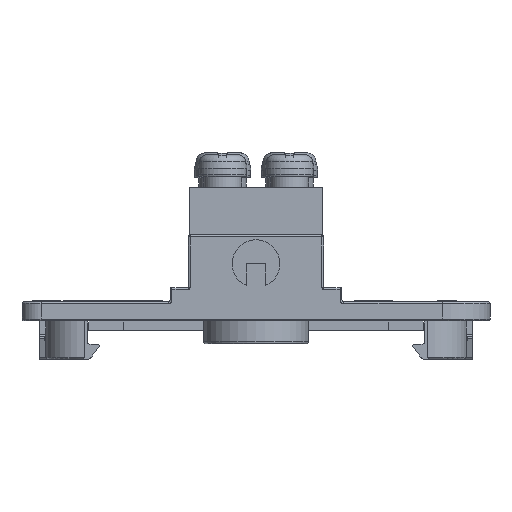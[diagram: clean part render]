
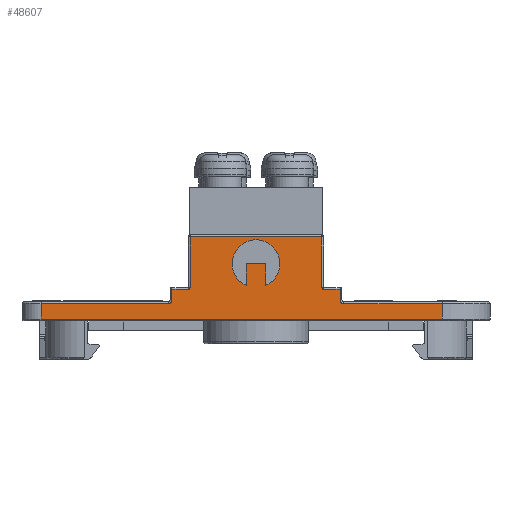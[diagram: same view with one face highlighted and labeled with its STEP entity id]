
A CAD part, left-side view. The second image highlights one B-rep face of the part: STEP entity #48607.
In plain terms, the highlighted planar face has unit normal (-1, 0, 0).
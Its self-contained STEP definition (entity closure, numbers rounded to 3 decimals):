
#3006=LINE('',#69910,#6292);
#3008=LINE('',#69914,#6294);
#3010=LINE('',#69918,#6296);
#3225=LINE('',#70447,#6511);
#3324=LINE('',#70712,#6610);
#3325=LINE('',#70717,#6611);
#3326=LINE('',#70719,#6612);
#3327=LINE('',#70721,#6613);
#3328=LINE('',#70722,#6614);
#3329=LINE('',#70726,#6615);
#3330=LINE('',#70728,#6616);
#3331=LINE('',#70732,#6617);
#3332=LINE('',#70734,#6618);
#3333=LINE('',#70736,#6619);
#3334=LINE('',#70740,#6620);
#6292=VECTOR('',#56758,1000.);
#6294=VECTOR('',#56762,1000.);
#6296=VECTOR('',#56766,1000.);
#6511=VECTOR('',#57171,1000.);
#6610=VECTOR('',#57432,1000.);
#6611=VECTOR('',#57435,1000.);
#6612=VECTOR('',#57436,1000.);
#6613=VECTOR('',#57437,1000.);
#6614=VECTOR('',#57438,1000.);
#6615=VECTOR('',#57441,1000.);
#6616=VECTOR('',#57442,1000.);
#6617=VECTOR('',#57445,1000.);
#6618=VECTOR('',#57446,1000.);
#6619=VECTOR('',#57447,1000.);
#6620=VECTOR('',#57450,1000.);
#12781=ORIENTED_EDGE('',*,*,#20768,.T.);
#12782=ORIENTED_EDGE('',*,*,#20769,.T.);
#12783=ORIENTED_EDGE('',*,*,#20770,.T.);
#12784=ORIENTED_EDGE('',*,*,#20771,.T.);
#12785=ORIENTED_EDGE('',*,*,#20772,.T.);
#12786=ORIENTED_EDGE('',*,*,#20630,.T.);
#12787=ORIENTED_EDGE('',*,*,#20773,.T.);
#12788=ORIENTED_EDGE('',*,*,#20774,.T.);
#12789=ORIENTED_EDGE('',*,*,#20775,.T.);
#12790=ORIENTED_EDGE('',*,*,#20776,.T.);
#12791=ORIENTED_EDGE('',*,*,#20777,.F.);
#12792=ORIENTED_EDGE('',*,*,#20778,.T.);
#12793=ORIENTED_EDGE('',*,*,#20779,.T.);
#12794=ORIENTED_EDGE('',*,*,#20780,.T.);
#12795=ORIENTED_EDGE('',*,*,#20781,.F.);
#12796=ORIENTED_EDGE('',*,*,#20782,.T.);
#12797=ORIENTED_EDGE('',*,*,#20381,.T.);
#12798=ORIENTED_EDGE('',*,*,#20379,.F.);
#12799=ORIENTED_EDGE('',*,*,#20377,.T.);
#12800=ORIENTED_EDGE('',*,*,#20374,.T.);
#20374=EDGE_CURVE('',#24755,#24756,#26578,.T.);
#20377=EDGE_CURVE('',#24757,#24755,#3006,.T.);
#20379=EDGE_CURVE('',#24757,#24758,#3008,.T.);
#20381=EDGE_CURVE('',#24756,#24758,#3010,.T.);
#20630=EDGE_CURVE('',#24978,#24979,#3225,.F.);
#20768=EDGE_CURVE('',#25063,#25064,#3324,.F.);
#20769=EDGE_CURVE('',#25064,#25065,#26652,.F.);
#20770=EDGE_CURVE('',#25065,#25066,#3325,.F.);
#20771=EDGE_CURVE('',#25066,#25067,#3326,.T.);
#20772=EDGE_CURVE('',#25067,#24978,#3327,.F.);
#20773=EDGE_CURVE('',#24979,#25068,#3328,.F.);
#20774=EDGE_CURVE('',#25068,#25069,#26653,.F.);
#20775=EDGE_CURVE('',#25069,#25070,#3329,.F.);
#20776=EDGE_CURVE('',#25070,#25071,#3330,.F.);
#20777=EDGE_CURVE('',#25072,#25071,#26654,.T.);
#20778=EDGE_CURVE('',#25072,#25073,#3331,.F.);
#20779=EDGE_CURVE('',#25073,#25074,#3332,.F.);
#20780=EDGE_CURVE('',#25074,#25075,#3333,.F.);
#20781=EDGE_CURVE('',#25076,#25075,#26655,.T.);
#20782=EDGE_CURVE('',#25076,#25063,#3334,.F.);
#24755=VERTEX_POINT('',#69905);
#24756=VERTEX_POINT('',#69906);
#24757=VERTEX_POINT('',#69911);
#24758=VERTEX_POINT('',#69915);
#24978=VERTEX_POINT('',#70448);
#24979=VERTEX_POINT('',#70449);
#25063=VERTEX_POINT('',#70713);
#25064=VERTEX_POINT('',#70714);
#25065=VERTEX_POINT('',#70716);
#25066=VERTEX_POINT('',#70718);
#25067=VERTEX_POINT('',#70720);
#25068=VERTEX_POINT('',#70723);
#25069=VERTEX_POINT('',#70725);
#25070=VERTEX_POINT('',#70727);
#25071=VERTEX_POINT('',#70729);
#25072=VERTEX_POINT('',#70731);
#25073=VERTEX_POINT('',#70733);
#25074=VERTEX_POINT('',#70735);
#25075=VERTEX_POINT('',#70737);
#25076=VERTEX_POINT('',#70739);
#26578=CIRCLE('',#51013,2.5);
#26652=CIRCLE('',#51193,0.4);
#26653=CIRCLE('',#51194,0.4);
#26654=CIRCLE('',#51195,0.2);
#26655=CIRCLE('',#51196,0.2);
#28191=EDGE_LOOP('',(#12781,#12782,#12783,#12784,#12785,#12786,#12787,#12788,
#12789,#12790,#12791,#12792,#12793,#12794,#12795,#12796));
#28192=EDGE_LOOP('',(#12797,#12798,#12799,#12800));
#30713=FACE_BOUND('',#28191,.T.);
#30714=FACE_BOUND('',#28192,.T.);
#32814=PLANE('',#51192);
#48607=ADVANCED_FACE('',(#30713,#30714),#32814,.T.);
#51013=AXIS2_PLACEMENT_3D('',#69904,#56752,#56753);
#51192=AXIS2_PLACEMENT_3D('',#70711,#57430,#57431);
#51193=AXIS2_PLACEMENT_3D('',#70715,#57433,#57434);
#51194=AXIS2_PLACEMENT_3D('',#70724,#57439,#57440);
#51195=AXIS2_PLACEMENT_3D('',#70730,#57443,#57444);
#51196=AXIS2_PLACEMENT_3D('',#70738,#57448,#57449);
#56752=DIRECTION('',(1.,0.,0.));
#56753=DIRECTION('',(0.,0.,-1.));
#56758=DIRECTION('',(0.,0.,-1.));
#56762=DIRECTION('',(0.,-1.,0.));
#56766=DIRECTION('',(0.,0.,1.));
#57171=DIRECTION('',(0.,0.,-1.));
#57430=DIRECTION('',(-1.,0.,0.));
#57431=DIRECTION('',(0.,-1.,0.));
#57432=DIRECTION('',(0.,0.,1.));
#57433=DIRECTION('',(-1.,0.,0.));
#57434=DIRECTION('',(0.,-1.,0.));
#57435=DIRECTION('',(0.,-1.,0.));
#57436=DIRECTION('',(0.,0.,-1.));
#57437=DIRECTION('',(0.,1.,0.));
#57438=DIRECTION('',(0.,-1.,0.));
#57439=DIRECTION('',(-1.,0.,0.));
#57440=DIRECTION('',(0.,-1.,0.));
#57441=DIRECTION('',(0.,0.,-1.));
#57442=DIRECTION('',(0.,-1.,0.));
#57443=DIRECTION('',(-1.,0.,0.));
#57444=DIRECTION('',(0.,-1.,0.));
#57445=DIRECTION('',(0.,0.,-1.));
#57446=DIRECTION('',(0.,-1.,0.));
#57447=DIRECTION('',(0.,0.,1.));
#57448=DIRECTION('',(-1.,0.,0.));
#57449=DIRECTION('',(0.,-1.,0.));
#57450=DIRECTION('',(0.,-1.,0.));
#69904=CARTESIAN_POINT('',(-57.,0.,6.));
#69905=CARTESIAN_POINT('',(-57.,1.,3.709));
#69906=CARTESIAN_POINT('',(-57.,-1.,3.709));
#69910=CARTESIAN_POINT('',(-57.,1.,4.));
#69911=CARTESIAN_POINT('',(-57.,1.,6.));
#69914=CARTESIAN_POINT('',(-57.,1.,6.));
#69915=CARTESIAN_POINT('',(-57.,-1.,6.));
#69918=CARTESIAN_POINT('',(-57.,-1.,4.));
#70447=CARTESIAN_POINT('',(-57.,-19.5,0.));
#70448=CARTESIAN_POINT('',(-57.,-19.5,0.2));
#70449=CARTESIAN_POINT('',(-57.,-19.5,1.8));
#70711=CARTESIAN_POINT('',(-57.,0.,0.));
#70712=CARTESIAN_POINT('',(-57.,8.8,0.));
#70713=CARTESIAN_POINT('',(-57.,8.8,3.3));
#70714=CARTESIAN_POINT('',(-57.,8.8,2.2));
#70715=CARTESIAN_POINT('',(-57.,9.2,2.2));
#70716=CARTESIAN_POINT('',(-57.,9.2,1.8));
#70717=CARTESIAN_POINT('',(-57.,22.5,1.8));
#70718=CARTESIAN_POINT('',(-57.,22.5,1.8));
#70719=CARTESIAN_POINT('',(-57.,22.5,0.));
#70720=CARTESIAN_POINT('',(-57.,22.5,0.2));
#70721=CARTESIAN_POINT('',(-57.,0.,0.2));
#70722=CARTESIAN_POINT('',(-57.,-9.,1.8));
#70723=CARTESIAN_POINT('',(-57.,-9.2,1.8));
#70724=CARTESIAN_POINT('',(-57.,-9.2,2.2));
#70725=CARTESIAN_POINT('',(-57.,-8.8,2.2));
#70726=CARTESIAN_POINT('',(-57.,-8.8,3.5));
#70727=CARTESIAN_POINT('',(-57.,-8.8,3.3));
#70728=CARTESIAN_POINT('',(-57.,0.,3.3));
#70729=CARTESIAN_POINT('',(-57.,-7.1,3.3));
#70730=CARTESIAN_POINT('',(-57.,-7.1,3.5));
#70731=CARTESIAN_POINT('',(-57.,-6.9,3.5));
#70732=CARTESIAN_POINT('',(-57.,-6.9,0.));
#70733=CARTESIAN_POINT('',(-57.,-6.9,8.8));
#70734=CARTESIAN_POINT('',(-57.,7.1,8.8));
#70735=CARTESIAN_POINT('',(-57.,6.9,8.8));
#70736=CARTESIAN_POINT('',(-57.,6.9,0.));
#70737=CARTESIAN_POINT('',(-57.,6.9,3.5));
#70738=CARTESIAN_POINT('',(-57.,7.1,3.5));
#70739=CARTESIAN_POINT('',(-57.,7.1,3.3));
#70740=CARTESIAN_POINT('',(-57.,9.,3.3));
